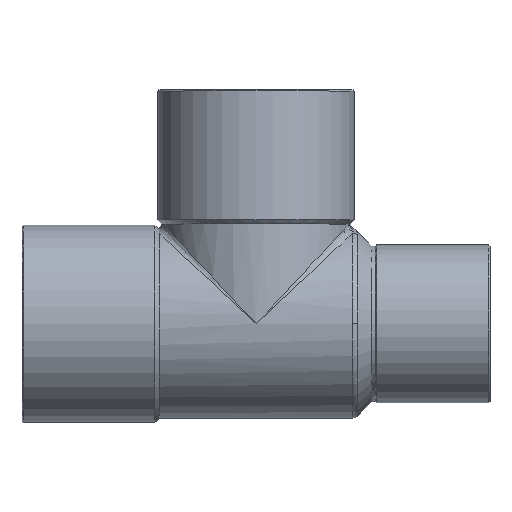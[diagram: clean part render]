
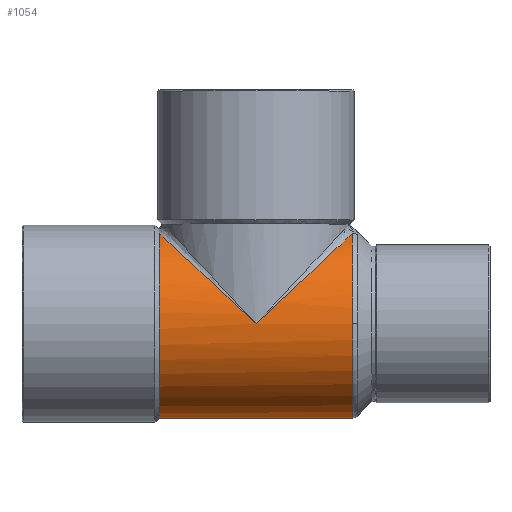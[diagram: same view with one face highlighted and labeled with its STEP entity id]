
A CAD part, top view. The second image highlights one B-rep face of the part: STEP entity #1054.
In plain terms, the highlighted cylindrical face has radius 14.5 mm (diameter 29 mm), a partial arc.
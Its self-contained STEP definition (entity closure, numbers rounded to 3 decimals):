
#346=CARTESIAN_POINT('',(-14.884,-14.5,0.));
#347=VERTEX_POINT('',#346);
#354=CARTESIAN_POINT('',(-14.884,13.924,4.046));
#355=VERTEX_POINT('',#354);
#356=CARTESIAN_POINT('',(-14.884,0.0,0.0));
#357=DIRECTION('',(1.0,0.0,0.0));
#358=DIRECTION('',(0.0,1.0,0.0));
#359=AXIS2_PLACEMENT_3D('',#356,#357,#358);
#360=CIRCLE('',#359,14.5);
#361=EDGE_CURVE('',#355,#347,#360,.T.);
#1004=CARTESIAN_POINT('',(0.207,0.0,0.0));
#1005=DIRECTION('',(1.0,0.0,0.0));
#1006=DIRECTION('',(0.0,1.0,0.0));
#1007=AXIS2_PLACEMENT_3D('',#1004,#1005,#1006);
#1008=CYLINDRICAL_SURFACE('',#1007,14.5);
#1009=CARTESIAN_POINT('',(14.885,-14.5,0.));
#1010=VERTEX_POINT('',#1009);
#1011=CARTESIAN_POINT('',(14.885,-14.5,0.));
#1012=DIRECTION('',(-1.0,0.0,0.0));
#1013=VECTOR('',#1012,29.77);
#1014=LINE('',#1011,#1013);
#1015=EDGE_CURVE('',#1010,#347,#1014,.T.);
#1016=ORIENTED_EDGE('',*,*,#1015,.F.);
#1017=CARTESIAN_POINT('',(14.885,0.,14.5));
#1018=VERTEX_POINT('',#1017);
#1019=CARTESIAN_POINT('',(14.885,0.0,0.0));
#1020=DIRECTION('',(1.0,0.0,0.0));
#1021=DIRECTION('',(0.0,-1.0,0.0));
#1022=AXIS2_PLACEMENT_3D('',#1019,#1020,#1021);
#1023=CIRCLE('',#1022,14.5);
#1024=EDGE_CURVE('',#1018,#1010,#1023,.T.);
#1025=ORIENTED_EDGE('',*,*,#1024,.F.);
#1026=CARTESIAN_POINT('',(14.885,13.925,4.043));
#1027=VERTEX_POINT('',#1026);
#1028=CARTESIAN_POINT('',(14.885,0.0,0.0));
#1029=DIRECTION('',(1.0,0.0,0.0));
#1030=DIRECTION('',(0.0,-1.0,0.0));
#1031=AXIS2_PLACEMENT_3D('',#1028,#1029,#1030);
#1032=CIRCLE('',#1031,14.5);
#1033=EDGE_CURVE('',#1027,#1018,#1032,.T.);
#1034=ORIENTED_EDGE('',*,*,#1033,.F.);
#1035=CARTESIAN_POINT('',(0.0,0.0,14.5));
#1036=VERTEX_POINT('',#1035);
#1037=CARTESIAN_POINT('',(0.0,0.0,0.0));
#1038=DIRECTION('',(-0.683,0.73,0.0));
#1039=DIRECTION('',(0.73,0.683,0.0));
#1040=AXIS2_PLACEMENT_3D('',#1037,#1038,#1039);
#1041=ELLIPSE('',#1040,21.225,14.5);
#1042=EDGE_CURVE('',#1036,#1027,#1041,.T.);
#1043=ORIENTED_EDGE('',*,*,#1042,.F.);
#1044=CARTESIAN_POINT('',(0.0,0.0,0.0));
#1045=DIRECTION('',(0.683,0.73,0.0));
#1046=DIRECTION('',(-0.73,0.683,0.0));
#1047=AXIS2_PLACEMENT_3D('',#1044,#1045,#1046);
#1048=ELLIPSE('',#1047,21.225,14.5);
#1049=EDGE_CURVE('',#355,#1036,#1048,.T.);
#1050=ORIENTED_EDGE('',*,*,#1049,.F.);
#1051=ORIENTED_EDGE('',*,*,#361,.T.);
#1052=EDGE_LOOP('',(#1016,#1025,#1034,#1043,#1050,#1051));
#1053=FACE_OUTER_BOUND('',#1052,.T.);
#1054=ADVANCED_FACE('',(#1053),#1008,.T.);
